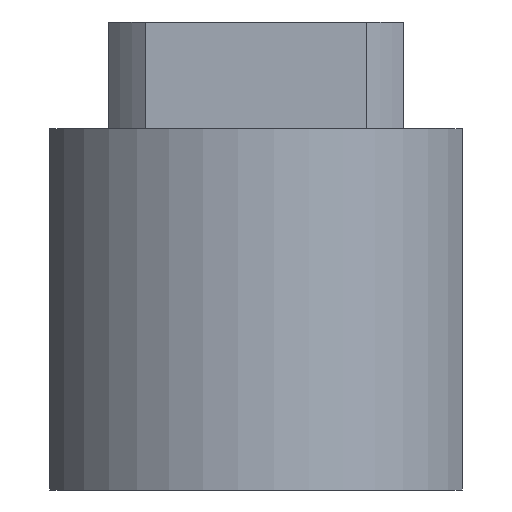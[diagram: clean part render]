
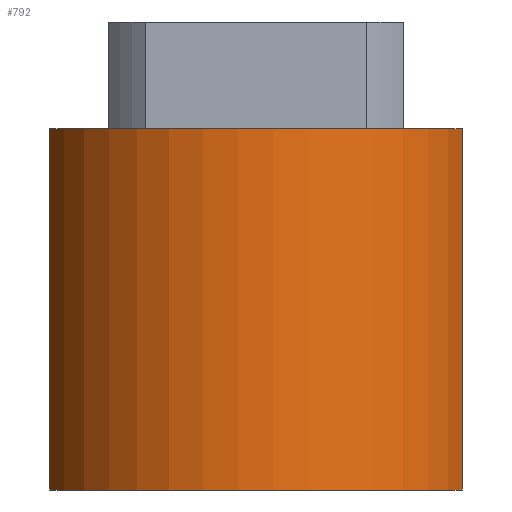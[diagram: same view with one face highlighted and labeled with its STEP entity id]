
A CAD part, front view. The second image highlights one B-rep face of the part: STEP entity #792.
In plain terms, the highlighted cylindrical face has radius 5.95 mm (diameter 11.9 mm), a partial arc.
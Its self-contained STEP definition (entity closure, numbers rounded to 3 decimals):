
#209 = VERTEX_POINT ( 'NONE', #577 ) ;
#210 = EDGE_CURVE ( 'NONE', #211, #209, #576, .T. ) ;
#211 = VERTEX_POINT ( 'NONE', #571 ) ;
#571 = CARTESIAN_POINT ( 'NONE',  ( 5.6, -2.011, -2.9 ) ) ;
#572 = DIRECTION ( 'NONE',  ( 0., 1., 0. ) ) ;
#573 = DIRECTION ( 'NONE',  ( 0., 0., -1. ) ) ;
#574 = CARTESIAN_POINT ( 'NONE',  ( 0., 0., -2.9 ) ) ;
#575 = AXIS2_PLACEMENT_3D ( 'NONE', #574, #573, #572 ) ;
#576 = CIRCLE ( 'NONE', #575, 5.95 ) ;
#577 = CARTESIAN_POINT ( 'NONE',  ( -5.6, -2.011, -2.9 ) ) ;
#582 = DIRECTION ( 'NONE',  ( 0., 1., 0. ) ) ;
#583 = DIRECTION ( 'NONE',  ( 0., 0., -1. ) ) ;
#584 = CARTESIAN_POINT ( 'NONE',  ( 0., 0., -12.7 ) ) ;
#585 = AXIS2_PLACEMENT_3D ( 'NONE', #584, #583, #582 ) ;
#587 = CYLINDRICAL_SURFACE ( 'NONE', #585, 5.95 ) ;
#588 = FACE_OUTER_BOUND ( 'NONE', #780, .T. ) ;
#614 = DIRECTION ( 'NONE',  ( 0., 0., -1. ) ) ;
#615 = VECTOR ( 'NONE', #614, 1000. ) ;
#616 = CARTESIAN_POINT ( 'NONE',  ( -5.6, -2.011, -12.7 ) ) ;
#617 = LINE ( 'NONE', #616, #615 ) ;
#658 = CARTESIAN_POINT ( 'NONE',  ( 5.6, -2.011, -12.7 ) ) ;
#659 = DIRECTION ( 'NONE',  ( 0., 1., 0. ) ) ;
#660 = DIRECTION ( 'NONE',  ( 0., 0., -1. ) ) ;
#661 = CARTESIAN_POINT ( 'NONE',  ( 0., 0., -12.7 ) ) ;
#662 = AXIS2_PLACEMENT_3D ( 'NONE', #661, #660, #659 ) ;
#663 = CIRCLE ( 'NONE', #662, 5.95 ) ;
#664 = DIRECTION ( 'NONE',  ( 0., 0., 1. ) ) ;
#665 = VECTOR ( 'NONE', #664, 1000. ) ;
#666 = CARTESIAN_POINT ( 'NONE',  ( 5.6, -2.011, -12.7 ) ) ;
#667 = LINE ( 'NONE', #666, #665 ) ;
#668 = CARTESIAN_POINT ( 'NONE',  ( -5.6, -2.011, -12.7 ) ) ;
#779 = ORIENTED_EDGE ( 'NONE', *, *, #210, .T. ) ;
#780 = EDGE_LOOP ( 'NONE', ( #779, #790, #816, #819 ) ) ;
#790 = ORIENTED_EDGE ( 'NONE', *, *, #807, .T. ) ;
#792 = ADVANCED_FACE ( 'NONE', ( #588 ), #587, .T. ) ;
#807 = EDGE_CURVE ( 'NONE', #209, #812, #617, .T. ) ;
#812 = VERTEX_POINT ( 'NONE', #668 ) ;
#815 = EDGE_CURVE ( 'NONE', #818, #211, #667, .T. ) ;
#816 = ORIENTED_EDGE ( 'NONE', *, *, #817, .F. ) ;
#817 = EDGE_CURVE ( 'NONE', #818, #812, #663, .T. ) ;
#818 = VERTEX_POINT ( 'NONE', #658 ) ;
#819 = ORIENTED_EDGE ( 'NONE', *, *, #815, .T. ) ;
